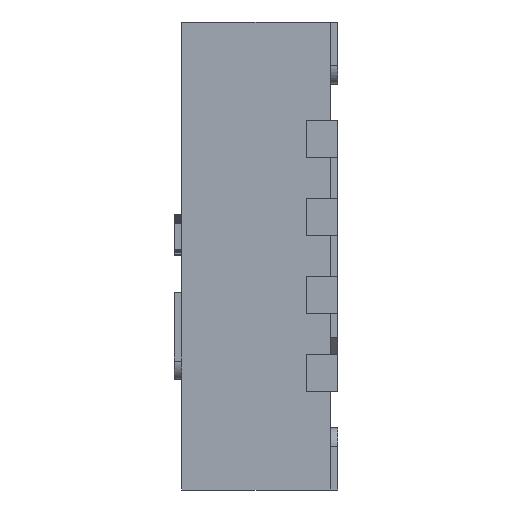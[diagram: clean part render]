
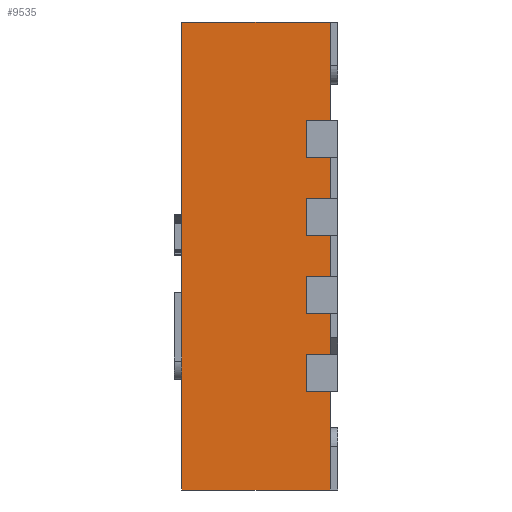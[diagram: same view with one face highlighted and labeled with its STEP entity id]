
A CAD part, left-side view. The second image highlights one B-rep face of the part: STEP entity #9535.
In plain terms, the highlighted planar face has unit normal (-1, 0, 0).
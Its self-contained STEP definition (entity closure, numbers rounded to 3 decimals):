
#1219=FACE_OUTER_BOUND('',#1760,.T.);
#1760=EDGE_LOOP('',(#8234,#8235,#8236,#8237,#8238,#8239,#8240,#8241,#8242,
#8243,#8244,#8245,#8246,#8247,#8248,#8249,#8250,#8251,#8252,#8253));
#2261=LINE('',#14909,#3173);
#2541=LINE('',#17531,#3453);
#2542=LINE('',#17533,#3454);
#2543=LINE('',#17535,#3455);
#2544=LINE('',#17537,#3456);
#2545=LINE('',#17538,#3457);
#2546=LINE('',#17540,#3458);
#2547=LINE('',#17542,#3459);
#2548=LINE('',#17544,#3460);
#2549=LINE('',#17546,#3461);
#2550=LINE('',#17548,#3462);
#2551=LINE('',#17550,#3463);
#2552=LINE('',#17552,#3464);
#2553=LINE('',#17554,#3465);
#2554=LINE('',#17556,#3466);
#2555=LINE('',#17558,#3467);
#2556=LINE('',#17560,#3468);
#2557=LINE('',#17562,#3469);
#2558=LINE('',#17564,#3470);
#2559=LINE('',#17565,#3471);
#3173=VECTOR('',#10717,1000.);
#3453=VECTOR('',#11159,1000.);
#3454=VECTOR('',#11160,1000.);
#3455=VECTOR('',#11161,1000.);
#3456=VECTOR('',#11162,1000.);
#3457=VECTOR('',#11163,1000.);
#3458=VECTOR('',#11164,1000.);
#3459=VECTOR('',#11165,1000.);
#3460=VECTOR('',#11166,1000.);
#3461=VECTOR('',#11167,1000.);
#3462=VECTOR('',#11168,1000.);
#3463=VECTOR('',#11169,1000.);
#3464=VECTOR('',#11170,1000.);
#3465=VECTOR('',#11171,1000.);
#3466=VECTOR('',#11172,1000.);
#3467=VECTOR('',#11173,1000.);
#3468=VECTOR('',#11174,1000.);
#3469=VECTOR('',#11175,1000.);
#3470=VECTOR('',#11176,1000.);
#3471=VECTOR('',#11177,1000.);
#4120=VERTEX_POINT('',#14906);
#4121=VERTEX_POINT('',#14908);
#4453=VERTEX_POINT('',#17529);
#4454=VERTEX_POINT('',#17530);
#4455=VERTEX_POINT('',#17532);
#4456=VERTEX_POINT('',#17534);
#4457=VERTEX_POINT('',#17536);
#4458=VERTEX_POINT('',#17539);
#4459=VERTEX_POINT('',#17541);
#4460=VERTEX_POINT('',#17543);
#4461=VERTEX_POINT('',#17545);
#4462=VERTEX_POINT('',#17547);
#4463=VERTEX_POINT('',#17549);
#4464=VERTEX_POINT('',#17551);
#4465=VERTEX_POINT('',#17553);
#4466=VERTEX_POINT('',#17555);
#4467=VERTEX_POINT('',#17557);
#4468=VERTEX_POINT('',#17559);
#4469=VERTEX_POINT('',#17561);
#4470=VERTEX_POINT('',#17563);
#5261=EDGE_CURVE('',#4120,#4121,#2261,.T.);
#5751=EDGE_CURVE('',#4453,#4454,#2541,.T.);
#5752=EDGE_CURVE('',#4453,#4455,#2542,.T.);
#5753=EDGE_CURVE('',#4455,#4456,#2543,.T.);
#5754=EDGE_CURVE('',#4456,#4457,#2544,.T.);
#5755=EDGE_CURVE('',#4121,#4457,#2545,.T.);
#5756=EDGE_CURVE('',#4120,#4458,#2546,.T.);
#5757=EDGE_CURVE('',#4458,#4459,#2547,.T.);
#5758=EDGE_CURVE('',#4460,#4459,#2548,.T.);
#5759=EDGE_CURVE('',#4460,#4461,#2549,.T.);
#5760=EDGE_CURVE('',#4461,#4462,#2550,.T.);
#5761=EDGE_CURVE('',#4462,#4463,#2551,.T.);
#5762=EDGE_CURVE('',#4464,#4463,#2552,.T.);
#5763=EDGE_CURVE('',#4464,#4465,#2553,.T.);
#5764=EDGE_CURVE('',#4465,#4466,#2554,.T.);
#5765=EDGE_CURVE('',#4466,#4467,#2555,.T.);
#5766=EDGE_CURVE('',#4468,#4467,#2556,.T.);
#5767=EDGE_CURVE('',#4468,#4469,#2557,.T.);
#5768=EDGE_CURVE('',#4469,#4470,#2558,.T.);
#5769=EDGE_CURVE('',#4470,#4454,#2559,.T.);
#8234=ORIENTED_EDGE('',*,*,#5751,.F.);
#8235=ORIENTED_EDGE('',*,*,#5752,.T.);
#8236=ORIENTED_EDGE('',*,*,#5753,.T.);
#8237=ORIENTED_EDGE('',*,*,#5754,.T.);
#8238=ORIENTED_EDGE('',*,*,#5755,.F.);
#8239=ORIENTED_EDGE('',*,*,#5261,.F.);
#8240=ORIENTED_EDGE('',*,*,#5756,.T.);
#8241=ORIENTED_EDGE('',*,*,#5757,.T.);
#8242=ORIENTED_EDGE('',*,*,#5758,.F.);
#8243=ORIENTED_EDGE('',*,*,#5759,.T.);
#8244=ORIENTED_EDGE('',*,*,#5760,.T.);
#8245=ORIENTED_EDGE('',*,*,#5761,.T.);
#8246=ORIENTED_EDGE('',*,*,#5762,.F.);
#8247=ORIENTED_EDGE('',*,*,#5763,.T.);
#8248=ORIENTED_EDGE('',*,*,#5764,.T.);
#8249=ORIENTED_EDGE('',*,*,#5765,.T.);
#8250=ORIENTED_EDGE('',*,*,#5766,.F.);
#8251=ORIENTED_EDGE('',*,*,#5767,.T.);
#8252=ORIENTED_EDGE('',*,*,#5768,.T.);
#8253=ORIENTED_EDGE('',*,*,#5769,.T.);
#9032=PLANE('',#9905);
#9535=ADVANCED_FACE('',(#1219),#9032,.F.);
#9905=AXIS2_PLACEMENT_3D('',#17528,#11157,#11158);
#10717=DIRECTION('',(0.,0.,1.));
#11157=DIRECTION('center_axis',(1.,0.,0.));
#11158=DIRECTION('ref_axis',(0.,0.,-1.));
#11159=DIRECTION('',(0.,-1.,0.));
#11160=DIRECTION('',(0.,0.,1.));
#11161=DIRECTION('',(0.,-1.,0.));
#11162=DIRECTION('',(0.,0.,1.));
#11163=DIRECTION('',(0.,-1.,0.));
#11164=DIRECTION('',(0.,-1.,0.));
#11165=DIRECTION('',(0.,0.,1.));
#11166=DIRECTION('',(0.,-1.,0.));
#11167=DIRECTION('',(0.,0.,1.));
#11168=DIRECTION('',(0.,-1.,0.));
#11169=DIRECTION('',(0.,0.,1.));
#11170=DIRECTION('',(0.,-1.,0.));
#11171=DIRECTION('',(0.,0.,1.));
#11172=DIRECTION('',(0.,-1.,0.));
#11173=DIRECTION('',(0.,0.,1.));
#11174=DIRECTION('',(0.,-1.,0.));
#11175=DIRECTION('',(0.,0.,1.));
#11176=DIRECTION('',(0.,-1.,0.));
#11177=DIRECTION('',(0.,0.,1.));
#14906=CARTESIAN_POINT('',(-1.5,1.,-1.5));
#14908=CARTESIAN_POINT('',(-1.5,1.,1.5));
#14909=CARTESIAN_POINT('',(-1.5,1.,1.5));
#17528=CARTESIAN_POINT('Origin',(-1.5,6.243,1.5));
#17529=CARTESIAN_POINT('',(-1.5,0.2,0.63));
#17530=CARTESIAN_POINT('',(-1.5,0.05,0.63));
#17531=CARTESIAN_POINT('',(-1.5,0.666,0.63));
#17532=CARTESIAN_POINT('',(-1.5,0.2,0.87));
#17533=CARTESIAN_POINT('',(-1.5,0.2,0.87));
#17534=CARTESIAN_POINT('',(-1.5,0.05,0.87));
#17535=CARTESIAN_POINT('',(-1.5,0.666,0.87));
#17536=CARTESIAN_POINT('',(-1.5,0.05,1.5));
#17537=CARTESIAN_POINT('',(-1.5,0.05,1.5));
#17538=CARTESIAN_POINT('',(-1.5,6.243,1.5));
#17539=CARTESIAN_POINT('',(-1.5,0.05,-1.5));
#17540=CARTESIAN_POINT('',(-1.5,6.243,-1.5));
#17541=CARTESIAN_POINT('',(-1.5,0.05,-0.87));
#17542=CARTESIAN_POINT('',(-1.5,0.05,1.5));
#17543=CARTESIAN_POINT('',(-1.5,0.2,-0.87));
#17544=CARTESIAN_POINT('',(-1.5,0.666,-0.87));
#17545=CARTESIAN_POINT('',(-1.5,0.2,-0.63));
#17546=CARTESIAN_POINT('',(-1.5,0.2,-0.63));
#17547=CARTESIAN_POINT('',(-1.5,0.05,-0.63));
#17548=CARTESIAN_POINT('',(-1.5,0.666,-0.63));
#17549=CARTESIAN_POINT('',(-1.5,0.05,-0.37));
#17550=CARTESIAN_POINT('',(-1.5,0.05,1.5));
#17551=CARTESIAN_POINT('',(-1.5,0.2,-0.37));
#17552=CARTESIAN_POINT('',(-1.5,0.666,-0.37));
#17553=CARTESIAN_POINT('',(-1.5,0.2,-0.13));
#17554=CARTESIAN_POINT('',(-1.5,0.2,-0.13));
#17555=CARTESIAN_POINT('',(-1.5,0.05,-0.13));
#17556=CARTESIAN_POINT('',(-1.5,0.666,-0.13));
#17557=CARTESIAN_POINT('',(-1.5,0.05,0.13));
#17558=CARTESIAN_POINT('',(-1.5,0.05,1.5));
#17559=CARTESIAN_POINT('',(-1.5,0.2,0.13));
#17560=CARTESIAN_POINT('',(-1.5,0.666,0.13));
#17561=CARTESIAN_POINT('',(-1.5,0.2,0.37));
#17562=CARTESIAN_POINT('',(-1.5,0.2,0.37));
#17563=CARTESIAN_POINT('',(-1.5,0.05,0.37));
#17564=CARTESIAN_POINT('',(-1.5,0.666,0.37));
#17565=CARTESIAN_POINT('',(-1.5,0.05,1.5));
